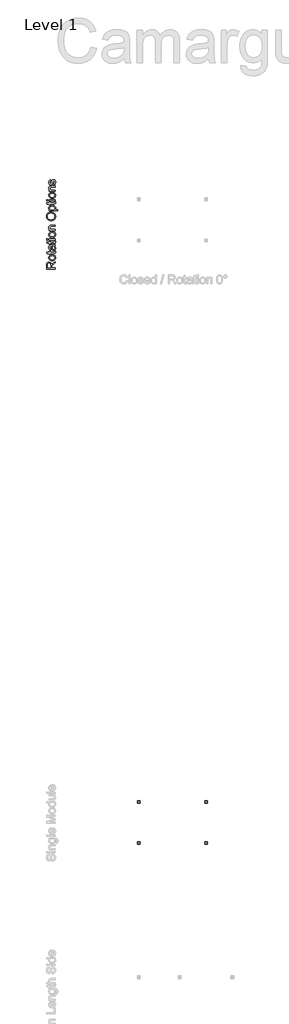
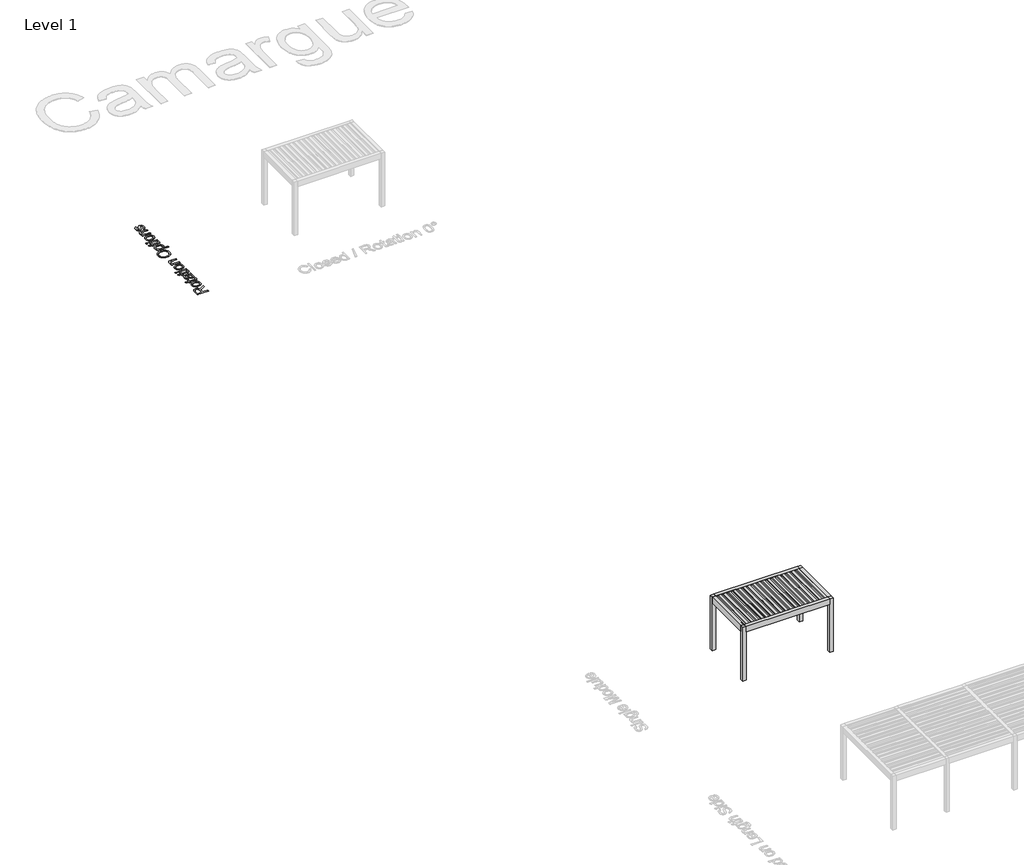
# One storey, part 43 of 69: 2 proxies.
"""IFC4 building model written with IfcOpenShell, lengths in millimetres."""

from ifc_helpers import new_model, si_unit, origin, origin_with_axes, place, context, project, spatial, polyline, outline, extrude, transform, mapped, element, save
from components import generic_models_9b0df196

model = new_model("IFC4")

# Units and contexts
model_context = context("Model", 3, world=origin())
ifc_project = project(units=[si_unit("LENGTHUNIT", "METRE", prefix="MILLI")], contexts=[model_context])

# Site, building, storey
site = spatial("IfcSite", under=ifc_project)
building = spatial("IfcBuilding", under=site)
storey = spatial("IfcBuildingStorey", under=building, Name="Level 1", Elevation=0.0)

# Proxies
placement = place(None, origin())
generic_models_shape = generic_models_9b0df196(model_context)
element("IfcBuildingElementProxy", 1, Name="Renson_Camargue_Freestanding_Patio covers : Renson_Camargue_Freestanding_Patio covers", ObjectType="Renson_Camargue_Freestanding_Patio covers : Renson_Camargue_Freestanding_Patio covers", at=placement, inside=storey, context=model_context, shape_type="MappedRepresentation", body=[
    mapped(generic_models_shape, transform((-9296.834943, 33378.5861401, 0.0), x_axis=(1.0, 0.0, 0.0), y_axis=(0.0, 1.0, 0.0), z_axis=(0.0, 0.0, 1.0))),
])
element("IfcBuildingElementProxy", 2, Name="500mm Arial", ObjectType="500mm Arial", at=placement, inside=storey, context=model_context, shape_type="SweptSolid", body=[
    extrude(outline(polyline([(-15987.0073412, 64966.2932218), (-16489.2888919, 64966.2932218), (-16489.2888919, 65182.7304623), (-16485.9013119, 65240.9018028), (-16475.7385718, 65283.2235606), (-16456.97659, 65314.156305), (-16427.7912851, 65338.1606052), (-16391.6008938, 65353.5656638), (-16351.823653, 65358.7006833), (-16326.0259281, 65356.5738655), (-16302.3435247, 65350.1934122), (-16280.7764427, 65339.5593232), (-16261.3246822, 65324.6715987), (-16244.6090441, 65305.3386335), (-16231.2503291, 65281.3688222), (-16221.2485374, 65252.762165), (-16214.6036688, 65219.5186618), (-16201.0840055, 65240.212024), (-16187.7482832, 65255.2032153), (-16123.1236794, 65306.093558), (-15987.0073412, 65389.8480256), (-15987.0073412, 65316.8847632), (-16091.1179458, 65251.5243954), (-16160.0345062, 65204.3128727), (-16180.1300602, 65186.7618358), (-16192.5920628, 65171.1421794), (-16204.5482276, 65141.2824241), (-16206.7555196, 65104.8621066), (-16206.7555196, 65029.0784156), (-15987.0073412, 65029.0784156), (-15987.0073412, 64966.2932218)]), holes=[polyline([(-16269.5407135, 65029.0784156), (-16269.5407135, 65169.6093378), (-16271.7633338, 65209.9690583), (-16278.431195, 65241.2850132), (-16289.988821, 65264.8601177), (-16306.880736, 65281.9972873), (-16327.3135151, 65292.4359389), (-16349.4937337, 65295.9154895), (-16365.55025, 65294.2561884), (-16380.1199098, 65289.2782851), (-16393.2027133, 65280.9817797), (-16404.7986604, 65269.3666721), (-16414.2946144, 65254.1647151), (-16421.0774386, 65235.1076613), (-16426.5036981, 65185.4282636), (-16426.5036981, 65029.0784156), (-16269.5407135, 65029.0784156)])]), origin_with_axes(), (0.0, 0.0, 1.0), 5.0),
    extrude(outline(polyline([(-16171.4388481, 65445.0303248), (-16219.209858, 65448.4255691), (-16260.3743204, 65458.6113018), (-16294.9322353, 65475.5875231), (-16322.8836028, 65499.3542328), (-16340.7488722, 65523.2818909), (-16353.5097789, 65549.6927525), (-16361.1663229, 65578.5868175), (-16363.7185042, 65609.964086), (-16360.6106678, 65644.6024751), (-16351.2871585, 65675.9222621), (-16335.7479763, 65703.9234468), (-16313.9931212, 65728.6060294), (-16286.7583573, 65748.7514008), (-16254.7794484, 65763.1409517), (-16218.0563947, 65771.7746823), (-16176.589196, 65774.6525925), (-16113.1602087, 65769.5635582), (-16087.1248933, 65763.2022654), (-16064.8756968, 65754.2964554), (-16045.6576947, 65742.9572594), (-16028.7159624, 65729.2958082), (-16014.0504999, 65713.3121019), (-16001.6613073, 65695.0061406), (-15984.7847208, 65654.278538), (-15979.1591919, 65609.964086), (-15982.2555321, 65574.8198591), (-15991.5445524, 65543.2088323), (-16007.0262531, 65515.1310054), (-16028.700634, 65490.5863786), (-16056.1998131, 65470.6556051), (-16089.1559085, 65456.4193383), (-16127.5689202, 65447.8775782), (-16171.4388481, 65445.0303248)]), holes=[polyline([(-16171.5614754, 65507.8155187), (-16141.107744, 65509.631936), (-16114.7390356, 65515.0811881), (-16092.4553501, 65524.1632748), (-16074.2566877, 65536.8781963), (-16060.1200556, 65552.3445685), (-16050.0224613, 65569.6810075), (-16043.9639046, 65588.8875134), (-16041.9443858, 65609.964086), (-16043.975401, 65630.9333597), (-16050.0684465, 65650.0632235), (-16060.2235224, 65667.3536772), (-16074.4406287, 65682.804721), (-16092.8194, 65695.5196425), (-16115.4594711, 65704.6017293), (-16142.360842, 65710.0509813), (-16173.5235127, 65711.8673987), (-16203.0115539, 65710.039485), (-16228.6904836, 65704.555744), (-16250.5603018, 65695.4161757), (-16268.6210085, 65682.62078), (-16282.7576406, 65667.1122547), (-16292.8552349, 65649.8332972), (-16298.9137915, 65630.7839077), (-16300.9333104, 65609.964086), (-16298.9214557, 65588.8875134), (-16292.8858917, 65569.6810075), (-16282.8266184, 65552.3445685), (-16268.7436358, 65536.8781963), (-16250.5986228, 65524.1632748), (-16228.3532584, 65515.0811881), (-16202.0075426, 65509.631936), (-16171.5614754, 65507.8155187)])]), origin_with_axes(), (0.0, 0.0, 1.0), 5.0),
    extrude(outline(polyline([(-16039.3692118, 65978.7044725), (-15985.1679312, 65986.5526217), (-15979.1591919, 65939.5863537), (-15981.7650227, 65909.4506869), (-15989.5825151, 65886.9792284), (-16001.6306505, 65871.0989889), (-16016.9284101, 65860.7369794), (-16043.2013159, 65855.0348085), (-16088.1748898, 65853.1340848), (-16293.0851612, 65853.1340848), (-16293.0851612, 65806.0451894), (-16355.870355, 65806.0451894), (-16355.870355, 65853.1340848), (-16445.5109345, 65853.1340848), (-16482.4217613, 65915.9192787), (-16355.870355, 65915.9192787), (-16355.870355, 65978.7044725), (-16293.0851612, 65978.7044725), (-16293.0851612, 65915.9192787), (-16090.0142998, 65915.9192787), (-16057.6406842, 65919.2302166), (-16046.1750287, 65929.9601081), (-16041.9443858, 65951.3585775), (-16039.3692118, 65978.7044725)])), origin_with_axes(), (0.0, 0.0, 1.0), 5.0),
    extrude(outline(polyline([(-16034.0962365, 66276.9341433), (-16008.3751537, 66246.9364322), (-15991.5445524, 66216.0496731), (-15982.2555321, 66183.5687586), (-15979.1591919, 66148.7885816), (-15981.0215945, 66120.8333821), (-15986.6088023, 66096.319412), (-15995.9208153, 66075.2466715), (-16008.9576335, 66057.6151605), (-16024.8915225, 66043.6931262), (-16042.8947476, 66033.748816), (-16062.967309, 66027.7822299), (-16085.1092065, 66025.7933679), (-16111.1368577, 66028.7977375), (-16134.7732759, 66037.8108464), (-16155.0067856, 66051.7137201), (-16170.8257114, 66069.3873843), (-16182.7818763, 66090.1573886), (-16191.4271032, 66113.3492827), (-16200.8694077, 66167.6731907), (-16210.8022216, 66231.8685988), (-16222.4518181, 66276.5662613), (-16236.4313339, 66276.9341433), (-16264.4516792, 66272.6115298), (-16282.7844653, 66259.6436895), (-16290.724585, 66246.5685502), (-16296.3960991, 66230.6423255), (-16300.9333104, 66190.2366197), (-16297.9136123, 66152.8352836), (-16288.8545182, 66126.7156619), (-16272.100559, 66108.904042), (-16245.9962658, 66096.426711), (-16253.844415, 66033.6415171), (-16288.1800679, 66044.5400212), (-16315.1580809, 66060.8034711), (-16335.7901294, 66083.94938), (-16351.0878891, 66115.495261), (-16360.5608504, 66154.0768853), (-16363.7185042, 66198.3300236), (-16360.9287324, 66240.7744088), (-16352.559417, 66274.420283), (-16339.9747871, 66299.7888122), (-16324.5390717, 66317.4011627), (-16305.4551932, 66329.0814161), (-16281.926074, 66336.6536538), (-16226.9890294, 66339.7193371), (-16148.875419, 66339.7193371), (-16039.7984075, 66342.9076477), (-16012.8357229, 66347.6288), (-15987.0073412, 66355.4156356), (-15987.0073412, 66292.6304417), (-16008.8350062, 66282.5750005), (-16034.0962365, 66276.9341433)]), holes=[polyline([(-16159.6666242, 66276.9341433), (-16149.2126442, 66234.7503411), (-16140.4141332, 66175.6439673), (-16130.2360646, 66121.6266276), (-16123.2769635, 66107.5704697), (-16113.6813748, 66097.1624749), (-16102.1850625, 66090.72454), (-16089.5237905, 66088.5785617), (-16070.8537792, 66093.2537287), (-16055.5560196, 66107.2792298), (-16045.3472942, 66130.3484966), (-16041.9443858, 66162.1549608), (-16045.6998478, 66195.877477), (-16056.9662339, 66225.6759186), (-16073.5669089, 66249.8335029), (-16093.3252378, 66266.6334474), (-16113.6813748, 66274.0830578), (-16141.8856611, 66276.5662613), (-16159.6666242, 66276.9341433)])]), origin_with_axes(), (0.0, 0.0, 1.0), 5.0),
    extrude(outline(polyline([(-16039.3692118, 66559.4675156), (-15985.1679312, 66567.3156648), (-15979.1591919, 66520.3493967), (-15981.7650227, 66490.21373), (-15989.5825151, 66467.7422714), (-16001.6306505, 66451.862032), (-16016.9284101, 66441.5000224), (-16043.2013159, 66435.7978515), (-16088.1748898, 66433.8971279), (-16293.0851612, 66433.8971279), (-16293.0851612, 66386.8082325), (-16355.870355, 66386.8082325), (-16355.870355, 66433.8971279), (-16445.5109345, 66433.8971279), (-16482.4217613, 66496.6823217), (-16355.870355, 66496.6823217), (-16355.870355, 66559.4675156), (-16293.0851612, 66559.4675156), (-16293.0851612, 66496.6823217), (-16090.0142998, 66496.6823217), (-16057.6406842, 66499.9932597), (-16046.1750287, 66510.7231512), (-16041.9443858, 66532.1216206), (-16039.3692118, 66559.4675156)])), origin_with_axes(), (0.0, 0.0, 1.0), 5.0),
    extrude(outline(polyline([(-16426.5036981, 66622.2527094), (-16489.2888919, 66622.2527094), (-16489.2888919, 66685.0379032), (-16426.5036981, 66685.0379032), (-16426.5036981, 66622.2527094)])), origin_with_axes(), (0.0, 0.0, 1.0), 5.0),
    extrude(outline(polyline([(-15987.0073412, 66622.2527094), (-16355.870355, 66622.2527094), (-16355.870355, 66685.0379032), (-15987.0073412, 66685.0379032), (-15987.0073412, 66622.2527094)])), origin_with_axes(), (0.0, 0.0, 1.0), 5.0),
    extrude(outline(polyline([(-16171.4388481, 66763.5193955), (-16219.209858, 66766.9146398), (-16260.3743204, 66777.1003725), (-16294.9322353, 66794.0765938), (-16322.8836028, 66817.8433035), (-16340.7488722, 66841.7709616), (-16353.5097789, 66868.1818232), (-16361.1663229, 66897.0758882), (-16363.7185042, 66928.4531567), (-16360.6106678, 66963.0915458), (-16351.2871585, 66994.4113328), (-16335.7479763, 67022.4125175), (-16313.9931212, 67047.0951002), (-16286.7583573, 67067.2404715), (-16254.7794484, 67081.6300225), (-16218.0563947, 67090.263753), (-16176.589196, 67093.1416632), (-16113.1602087, 67088.052629), (-16087.1248933, 67081.6913361), (-16064.8756968, 67072.7855262), (-16045.6576947, 67061.4463301), (-16028.7159624, 67047.7848789), (-16014.0504999, 67031.8011726), (-16001.6613073, 67013.4952113), (-15984.7847208, 66972.7676087), (-15979.1591919, 66928.4531567), (-15982.2555321, 66893.3089299), (-15991.5445524, 66861.697903), (-16007.0262531, 66833.6200761), (-16028.700634, 66809.0754493), (-16056.1998131, 66789.1446758), (-16089.1559085, 66774.908409), (-16127.5689202, 66766.3666489), (-16171.4388481, 66763.5193955)]), holes=[polyline([(-16171.5614754, 66826.3045894), (-16141.107744, 66828.1210067), (-16114.7390356, 66833.5702588), (-16092.4553501, 66842.6523455), (-16074.2566877, 66855.367267), (-16060.1200556, 66870.8336392), (-16050.0224613, 66888.1700782), (-16043.9639046, 66907.3765841), (-16041.9443858, 66928.4531567), (-16043.975401, 66949.4224304), (-16050.0684465, 66968.5522942), (-16060.2235224, 66985.842748), (-16074.4406287, 67001.2937918), (-16092.8194, 67014.0087132), (-16115.4594711, 67023.0908), (-16142.360842, 67028.540052), (-16173.5235127, 67030.3564694), (-16203.0115539, 67028.5285557), (-16228.6904836, 67023.0448147), (-16250.5603018, 67013.9052464), (-16268.6210085, 67001.1098508), (-16282.7576406, 66985.6013254), (-16292.8552349, 66968.3223679), (-16298.9137915, 66949.2729784), (-16300.9333104, 66928.4531567), (-16298.9214557, 66907.3765841), (-16292.8858917, 66888.1700782), (-16282.8266184, 66870.8336392), (-16268.7436358, 66855.367267), (-16250.5986228, 66842.6523455), (-16228.3532584, 66833.5702588), (-16202.0075426, 66828.1210067), (-16171.5614754, 66826.3045894)])]), origin_with_axes(), (0.0, 0.0, 1.0), 5.0),
    extrude(outline(polyline([(-15987.0073412, 67163.7750063), (-16355.870355, 67163.7750063), (-16355.870355, 67226.5602001), (-16304.3668757, 67226.5602001), (-16330.3332132, 67248.3725368), (-16348.8805971, 67274.5688005), (-16360.0090274, 67305.1489914), (-16363.7185042, 67340.1131093), (-16360.729463, 67371.0611822), (-16351.7623394, 67399.4034242), (-16337.9361077, 67423.0398424), (-16320.3697425, 67439.8704437), (-16299.1092288, 67451.2901139), (-16274.2005521, 67458.6937391), (-16213.5000229, 67462.0046771), (-15987.0073412, 67462.0046771), (-15987.0073412, 67399.2194832), (-16205.038737, 67399.2194832), (-16237.504323, 67397.4107301), (-16260.5889182, 67391.9844706), (-16277.1282796, 67381.9750147), (-16289.9581642, 67366.416672), (-16298.1895238, 67346.4744022), (-16300.9333104, 67323.3131649), (-16299.3928045, 67304.2484469), (-16294.771287, 67286.5402938), (-16287.0687577, 67270.1887055), (-16276.2852167, 67255.1936821), (-16261.1943907, 67242.6665337), (-16240.5700063, 67233.7185706), (-16214.4120636, 67228.3497928), (-16182.7205626, 67226.5602001), (-15987.0073412, 67226.5602001), (-15987.0073412, 67163.7750063)])), origin_with_axes(), (0.0, 0.0, 1.0), 5.0),
    extrude(outline(polyline([(-16231.5262406, 67728.8417509), (-16290.4410093, 67733.0264086), (-16342.5959463, 67745.5803817), (-16387.9910517, 67766.5036701), (-16426.6263254, 67795.796274), (-16457.4747635, 67831.7030896), (-16479.5093622, 67872.4690132), (-16492.7301214, 67918.0940448), (-16497.1370411, 67968.5781844), (-16495.0677049, 68002.3696785), (-16488.8596963, 68034.4597184), (-16478.5130151, 68064.848304), (-16464.0276616, 68093.5354354), (-16445.8404954, 68119.7163708), (-16424.3883766, 68142.5863681), (-16399.671305, 68162.1454275), (-16371.6892808, 68178.393549), (-16341.0784331, 68191.1621199), (-16308.4748913, 68200.2825277), (-16273.8786553, 68205.7547724), (-16237.2897252, 68207.5788539), (-16200.21795, 68205.6589698), (-16165.1541973, 68199.8993173), (-16132.0984672, 68190.2998965), (-16101.0507597, 68176.8607073), (-16072.831145, 68159.8998145), (-16048.2596934, 68139.7352827), (-16027.3364049, 68116.3671118), (-16010.0612795, 68089.7953018), (-15996.5416162, 68061.0660173), (-15986.8847138, 68031.2254225), (-15981.0905724, 68000.2735176), (-15979.1591919, 67968.2103024), (-15981.2936739, 67933.8286643), (-15987.6971199, 67901.317093), (-15998.3695299, 67870.6755884), (-16013.3109038, 67841.9041507), (-16031.942594, 67815.7538722), (-16053.6859528, 67792.9758454), (-16078.5409801, 67773.5700701), (-16106.5076759, 67757.5365465), (-16136.4632338, 67744.9825734), (-16167.2848472, 67736.0154498), (-16198.9725162, 67730.6351756), (-16231.5262406, 67728.8417509)]), holes=[polyline([(-16230.913104, 67791.6269447), (-16189.2887891, 67794.765438), (-16152.3396412, 67804.1809178), (-16120.0656603, 67819.8733842), (-16092.4668464, 67841.8428371), (-16070.3632699, 67868.5487707), (-16054.5750009, 67898.4506791), (-16045.1020396, 67931.5485623), (-16041.9443858, 67967.8424204), (-16045.1326964, 68004.7570794), (-16054.6976283, 68038.2458372), (-16070.6391814, 68068.308694), (-16092.9573558, 68094.9456498), (-16121.1386494, 68116.7541543), (-16154.6695605, 68132.3316575), (-16193.5500888, 68141.6781595), (-16237.7802345, 68144.7936601), (-16293.3610726, 68139.4593712), (-16341.4003299, 68123.4565044), (-16362.2891294, 68111.5578211), (-16380.6870613, 68097.198927), (-16396.5941254, 68080.379822), (-16410.010322, 68061.1005062), (-16420.6597393, 68039.9587878), (-16428.266466, 68017.552475), (-16432.830502, 67993.8815679), (-16434.3518473, 67968.9460664), (-16431.4202877, 67933.9129706), (-16422.6256087, 67901.4090635), (-16407.9678105, 67871.4343451), (-16387.4468929, 67843.9888154), (-16360.0741732, 67821.080497), (-16324.8609685, 67804.7174124), (-16281.8072787, 67794.8995616), (-16230.913104, 67791.6269447)])]), origin_with_axes(), (0.0, 0.0, 1.0), 5.0),
    extrude(outline(polyline([(-15845.740655, 68286.0603462), (-16355.870355, 68286.0603462), (-16355.870355, 68348.8455401), (-16294.3114345, 68348.8455401), (-16324.6770275, 68369.3243045), (-16346.3667368, 68392.2556155), (-16359.3805624, 68418.9883738), (-16363.7185042, 68450.8714801), (-16362.200991, 68472.768123), (-16357.6484513, 68493.3311937), (-16350.0608852, 68512.5606922), (-16339.4382925, 68530.4566184), (-16326.056585, 68546.6280977), (-16310.1916739, 68560.6842556), (-16271.0122414, 68582.450607), (-16224.7510805, 68595.6023884), (-16174.2592767, 68599.9863155), (-16120.5638338, 68595.0352369), (-16072.539905, 68580.1820014), (-16051.264063, 68569.16087), (-16032.6247086, 68555.9017897), (-16016.6218418, 68540.4047607), (-16003.2554626, 68522.6697828), (-15985.1832596, 68483.9655312), (-15979.1591919, 68443.2685855), (-15983.1905655, 68414.4051773), (-15995.2846861, 68388.6381092), (-16013.5408301, 68366.5805179), (-16036.0582739, 68348.8455401), (-15845.740655, 68348.8455401), (-15845.740655, 68286.0603462)]), holes=[polyline([(-16168.4957921, 68348.8455401), (-16138.237498, 68350.5431622), (-16112.2098469, 68355.6360286), (-16090.4128386, 68364.1241392), (-16072.8464734, 68376.0074941), (-16059.3268101, 68390.3127387), (-16049.6699077, 68406.0665188), (-16043.8757663, 68423.2688341), (-16041.9443858, 68441.9196849), (-16043.9447441, 68460.8387829), (-16049.9458192, 68478.3553308), (-16059.9476109, 68494.4693286), (-16073.9501194, 68509.1807763), (-16092.1526139, 68521.4396774), (-16114.754364, 68530.1960353), (-16141.7553696, 68535.44985), (-16173.1556307, 68537.2011216), (-16203.1533417, 68535.4920032), (-16229.1350077, 68530.3646479), (-16251.1006285, 68521.8190557), (-16269.0502041, 68509.8552266), (-16282.9990631, 68495.515493), (-16292.9625338, 68479.8421872), (-16298.9406162, 68462.8353091), (-16300.9333104, 68444.4948588), (-16298.8141568, 68426.2118901), (-16292.4566961, 68409.0095747), (-16281.8609282, 68392.8879127), (-16267.0268532, 68377.846904), (-16248.1537404, 68365.1588073), (-16225.4408593, 68356.0958811), (-16198.8882099, 68350.6581253), (-16168.4957921, 68348.8455401)])]), origin_with_axes(), (0.0, 0.0, 1.0), 5.0),
    extrude(outline(polyline([(-16039.3692118, 68804.0381955), (-15985.1679312, 68811.8863447), (-15979.1591919, 68764.9200766), (-15981.7650227, 68734.7844099), (-15989.5825151, 68712.3129513), (-16001.6306505, 68696.4327119), (-16016.9284101, 68686.0707023), (-16043.2013159, 68680.3685314), (-16088.1748898, 68678.4678078), (-16293.0851612, 68678.4678078), (-16293.0851612, 68631.3789124), (-16355.870355, 68631.3789124), (-16355.870355, 68678.4678078), (-16445.5109345, 68678.4678078), (-16482.4217613, 68741.2530016), (-16355.870355, 68741.2530016), (-16355.870355, 68804.0381955), (-16293.0851612, 68804.0381955), (-16293.0851612, 68741.2530016), (-16090.0142998, 68741.2530016), (-16057.6406842, 68744.5639396), (-16046.1750287, 68755.2938311), (-16041.9443858, 68776.6923005), (-16039.3692118, 68804.0381955)])), origin_with_axes(), (0.0, 0.0, 1.0), 5.0),
    extrude(outline(polyline([(-15987.0073412, 68866.8233893), (-16355.870355, 68866.8233893), (-16355.870355, 68929.6085831), (-15987.0073412, 68929.6085831), (-15987.0073412, 68866.8233893)])), origin_with_axes(), (0.0, 0.0, 1.0), 5.0),
    extrude(outline(polyline([(-16426.5036981, 68866.8233893), (-16489.2888919, 68866.8233893), (-16489.2888919, 68929.6085831), (-16426.5036981, 68929.6085831), (-16426.5036981, 68866.8233893)])), origin_with_axes(), (0.0, 0.0, 1.0), 5.0),
    extrude(outline(polyline([(-16171.4388481, 69008.0900754), (-16219.209858, 69011.4853197), (-16260.3743204, 69021.6710524), (-16294.9322353, 69038.6472737), (-16322.8836028, 69062.4139834), (-16340.7488722, 69086.3416415), (-16353.5097789, 69112.7525031), (-16361.1663229, 69141.6465681), (-16363.7185042, 69173.0238366), (-16360.6106678, 69207.6622257), (-16351.2871585, 69238.9820127), (-16335.7479763, 69266.9831975), (-16313.9931212, 69291.6657801), (-16286.7583573, 69311.8111514), (-16254.7794484, 69326.2007024), (-16218.0563947, 69334.8344329), (-16176.589196, 69337.7123431), (-16113.1602087, 69332.6233089), (-16087.1248933, 69326.262016), (-16064.8756968, 69317.3562061), (-16045.6576947, 69306.01701), (-16028.7159624, 69292.3555588), (-16014.0504999, 69276.3718525), (-16001.6613073, 69258.0658912), (-15984.7847208, 69217.3382886), (-15979.1591919, 69173.0238366), (-15982.2555321, 69137.8796098), (-15991.5445524, 69106.2685829), (-16007.0262531, 69078.1907561), (-16028.700634, 69053.6461292), (-16056.1998131, 69033.7153557), (-16089.1559085, 69019.4790889), (-16127.5689202, 69010.9373288), (-16171.4388481, 69008.0900754)]), holes=[polyline([(-16171.5614754, 69070.8752693), (-16141.107744, 69072.6916866), (-16114.7390356, 69078.1409387), (-16092.4553501, 69087.2230255), (-16074.2566877, 69099.9379469), (-16060.1200556, 69115.4043191), (-16050.0224613, 69132.7407581), (-16043.9639046, 69151.947264), (-16041.9443858, 69173.0238366), (-16043.975401, 69193.9931103), (-16050.0684465, 69213.1229741), (-16060.2235224, 69230.4134279), (-16074.4406287, 69245.8644717), (-16092.8194, 69258.5793931), (-16115.4594711, 69267.6614799), (-16142.360842, 69273.1107319), (-16173.5235127, 69274.9271493), (-16203.0115539, 69273.0992356), (-16228.6904836, 69267.6154946), (-16250.5603018, 69258.4759263), (-16268.6210085, 69245.6805307), (-16282.7576406, 69230.1720053), (-16292.8552349, 69212.8930478), (-16298.9137915, 69193.8436583), (-16300.9333104, 69173.0238366), (-16298.9214557, 69151.947264), (-16292.8858917, 69132.7407581), (-16282.8266184, 69115.4043191), (-16268.7436358, 69099.9379469), (-16250.5986228, 69087.2230255), (-16228.3532584, 69078.1409387), (-16202.0075426, 69072.6916866), (-16171.5614754, 69070.8752693)])]), origin_with_axes(), (0.0, 0.0, 1.0), 5.0),
    extrude(outline(polyline([(-15987.0073412, 69408.3456862), (-16355.870355, 69408.3456862), (-16355.870355, 69471.13088), (-16304.3668757, 69471.13088), (-16330.3332132, 69492.9432167), (-16348.8805971, 69519.1394804), (-16360.0090274, 69549.7196713), (-16363.7185042, 69584.6837892), (-16360.729463, 69615.6318621), (-16351.7623394, 69643.9741041), (-16337.9361077, 69667.6105223), (-16320.3697425, 69684.4411236), (-16299.1092288, 69695.8607938), (-16274.2005521, 69703.264419), (-16213.5000229, 69706.575357), (-15987.0073412, 69706.575357), (-15987.0073412, 69643.7901631), (-16205.038737, 69643.7901631), (-16237.504323, 69641.98141), (-16260.5889182, 69636.5551505), (-16277.1282796, 69626.5456946), (-16289.9581642, 69610.9873519), (-16298.1895238, 69591.0450821), (-16300.9333104, 69567.8838448), (-16299.3928045, 69548.8191268), (-16294.771287, 69531.1109737), (-16287.0687577, 69514.7593854), (-16276.2852167, 69499.764362), (-16261.1943907, 69487.2372136), (-16240.5700063, 69478.2892505), (-16214.4120636, 69472.9204727), (-16182.7205626, 69471.13088), (-15987.0073412, 69471.13088), (-15987.0073412, 69408.3456862)])), origin_with_axes(), (0.0, 0.0, 1.0), 5.0),
    extrude(outline(polyline([(-16096.8814304, 69769.3605508), (-16104.7295796, 69832.1457446), (-16077.874194, 69842.0479017), (-16058.1311936, 69861.2084223), (-16045.9910877, 69889.7499337), (-16041.9443858, 69927.7950634), (-16045.6538626, 69965.3803406), (-16056.7822929, 69991.8065306), (-16072.907787, 70007.4415153), (-16091.6084551, 70012.6531769), (-16107.6113219, 70007.4108585), (-16119.8127414, 69991.6839032), (-16137.7163319, 69927.0592994), (-16154.2863501, 69869.7616787), (-16168.4344785, 69832.5136266), (-16183.8701938, 69808.5859685), (-16204.302973, 69791.2495295), (-16228.4299005, 69780.7189074), (-16254.948061, 69777.2087), (-16279.2742579, 69780.0291287), (-16301.730388, 69788.4904146), (-16321.4274032, 69801.8261369), (-16337.4762552, 69819.2698748), (-16347.5776817, 69836.6063138), (-16356.054296, 69859.1850713), (-16361.8024522, 69885.2893645), (-16363.7185042, 69913.2024109), (-16360.6374925, 69954.0679692), (-16351.3944574, 69989.5992386), (-16336.8937754, 70018.1714069), (-16318.0398232, 70038.1596619), (-16293.4377147, 70051.4034138), (-16261.6925642, 70059.7420723), (-16253.844415, 69996.9568785), (-16273.6027438, 69989.0320872), (-16288.4866362, 69973.3511171), (-16297.8216418, 69949.7606842), (-16300.9333104, 69918.1075042), (-16297.9595976, 69882.0550687), (-16289.0384592, 69858.0201116), (-16276.1625894, 69844.5004483), (-16261.3246822, 69839.9938939), (-16251.6677799, 69841.8639607), (-16243.0532098, 69847.4741611), (-16235.3583447, 69857.0697498), (-16229.1963213, 69870.8959815), (-16215.8299422, 69924.9746348), (-16186.2767552, 70017.1290746), (-16172.1439552, 70041.4705999), (-16152.7994937, 70059.9260133), (-16128.1820568, 70071.5602814), (-16098.230331, 70075.4383708), (-16067.2669298, 70070.8858311), (-16038.1429385, 70057.228212), (-16013.1422912, 70034.9866797), (-15994.5489221, 70004.6824004), (-15983.0066245, 69968.0781419), (-15979.1591919, 69926.9366721), (-15981.0139303, 69893.145178), (-15986.5781455, 69863.6303121), (-15995.8518375, 69838.3920744), (-16008.8350062, 69817.4304648), (-16025.4663381, 69800.3086236), (-16045.6845194, 69786.5896909), (-16069.4895502, 69776.2736666), (-16096.8814304, 69769.3605508)])), origin_with_axes(), (0.0, 0.0, 1.0), 5.0),
])

save(model, "model.ifc")
